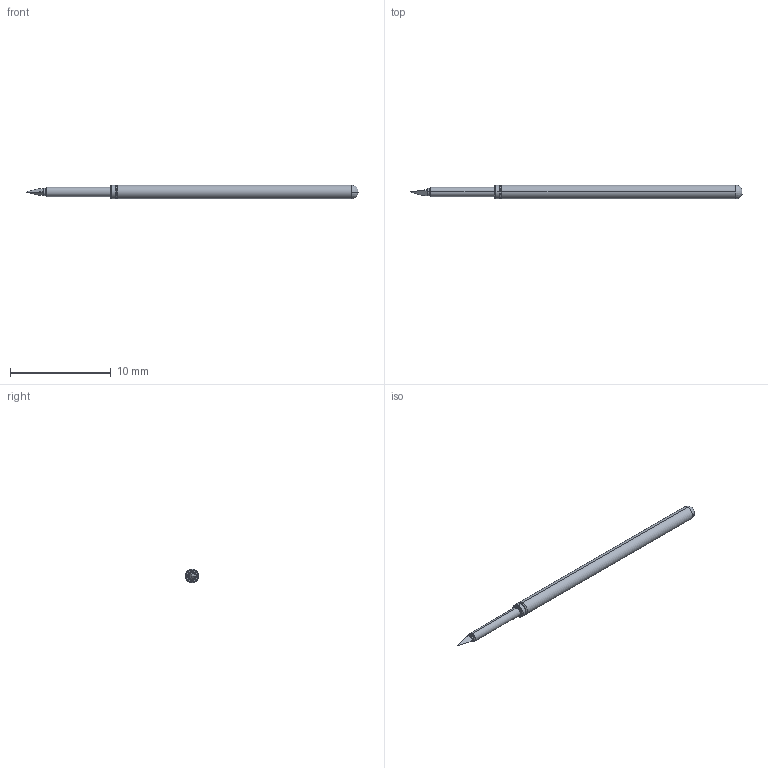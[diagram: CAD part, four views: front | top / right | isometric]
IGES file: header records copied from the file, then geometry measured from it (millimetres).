
Start section: SolidWorks IGES file using analytic representation for surfaces
Global section: file name: Z:\probe solid model mockups\Solidworks models\POGO-25 IGS files\POGO-25T1.IGS; native system: SolidWorks 2006 by SolidWorks Corporation; preprocessor: SolidWorks 2006 by SolidWorks Corporation; author: tsakatani; date: 071214.093257; units: inch
Bounding box: 33.02 x 1.37 x 1.37 mm (x, y, z)
Surface area: 128.3 mm2 (no closed solid volume)
Topology: 0 solids, 0 shells, 28 faces, 178 edges, 178 vertices
Faces by surface type: revolution 16, bspline 12
